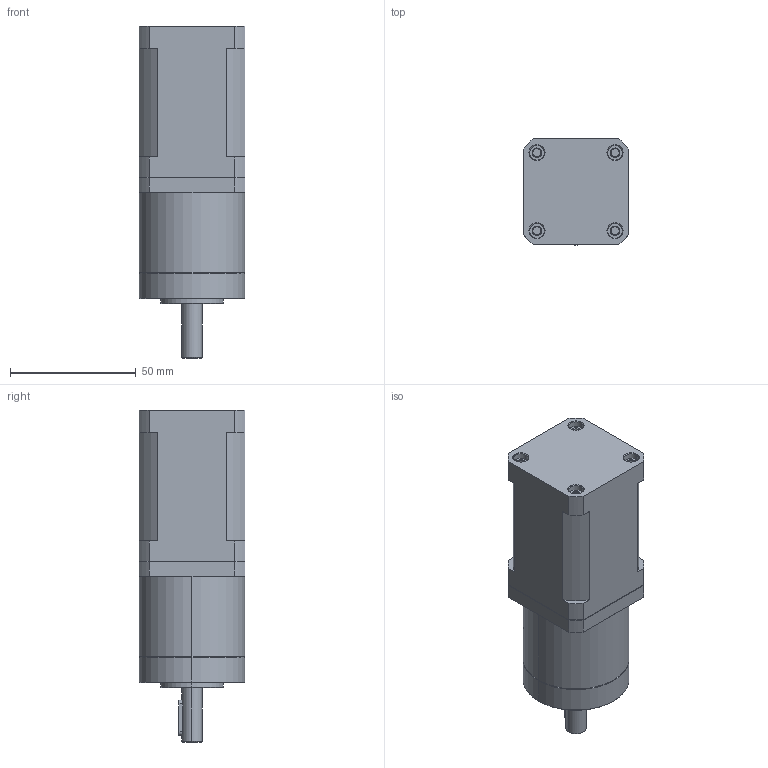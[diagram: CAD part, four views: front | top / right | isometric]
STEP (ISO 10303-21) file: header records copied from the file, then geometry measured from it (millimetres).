
FILE_DESCRIPTION (( 'STEP AP203' ), '1' );
FILE_NAME ('YK42H60-PG15.STEP', '2021-06-02T06:16:09', ( 'Admin' ), ( '' ), 'SwSTEP 2.0', 'SolidWorks 2016', '' );
FILE_SCHEMA (( 'CONFIG_CONTROL_DESIGN' ));
Length unit declared in the file: millimetre
Products named in the file (1): YK42H60-PG15
Bounding box: 42 x 42 x 131.8 mm (x, y, z)
Volume: 171575.7 mm3; surface area: 21020.7 mm2
Topology: 1 solids, 2 shells, 152 faces, 341 edges, 204 vertices
Faces by surface type: cylinder 57, cone 48, plane 45, torus 2
Entity records: 4298 total; most frequent: DIRECTION 787, CARTESIAN_POINT 767, ORIENTED_EDGE 666, EDGE_CURVE 333, AXIS2_PLACEMENT_3D 312, VERTEX_POINT 204, EDGE_LOOP 173, LINE 163
